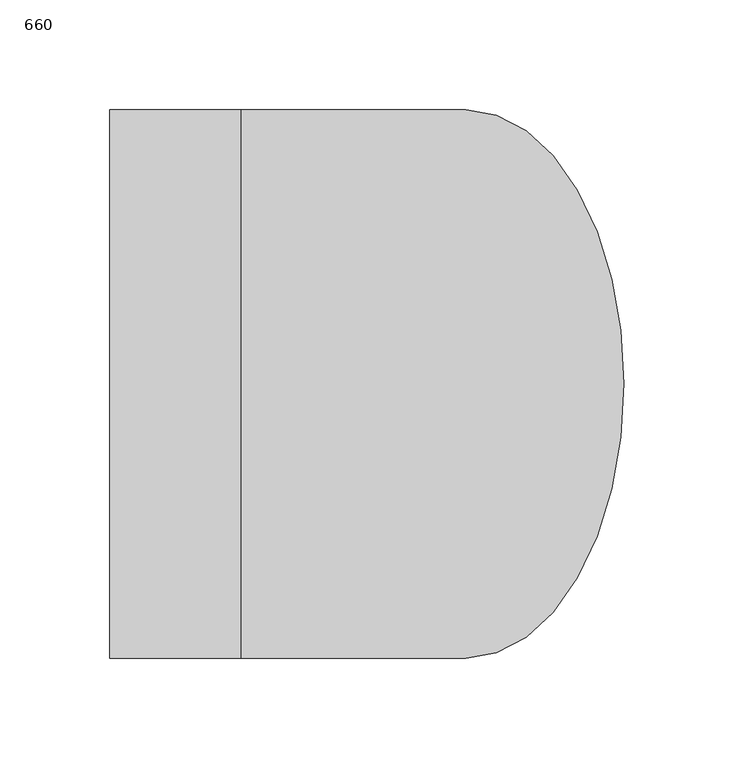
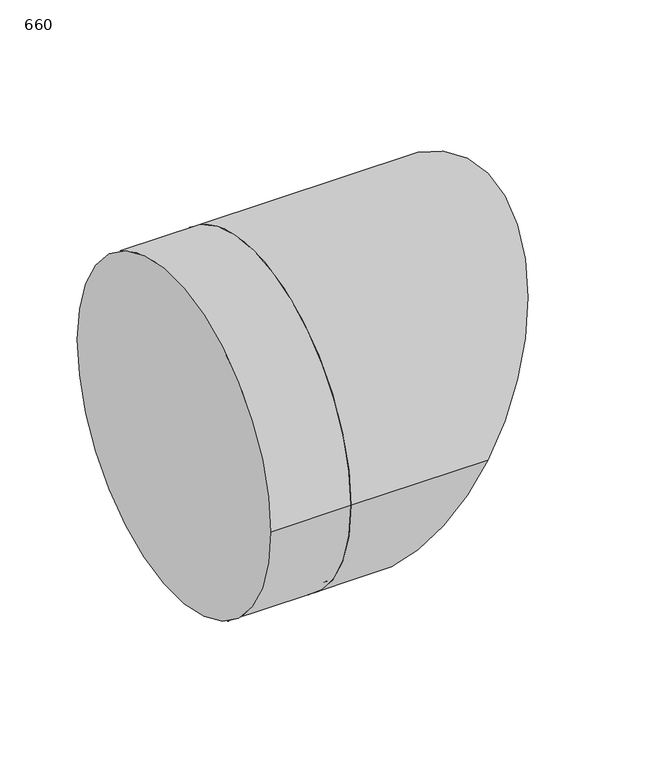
"""IFC4 building model written with IfcOpenShell, lengths in millimetres: pipe fitting geometry, CADS_Jeremias_HorizontalTerminalWithGrid_Socket : 660."""

from ifc_helpers import new_model, si_unit, point, frame, origin, origin_2d, place, context, project, spatial, polyline, circle_curve, ellipse_curve, trimmed, segment, composite_curve, outline, extrude, source, transform, mapped, element, save
from ifc_brep_helpers import plane_surface, cylinder_surface, revolved_surface, advanced_brep


def pipe_fitting_660_6ef6b7b5(model_context):
    return source(origin(), model_context, "Body", "SolidModel", [
        advanced_brep(
        [(102.1687836, -125.0, 0.0), (30.0, 0.0, -125.0), (102.1687836, 125.0, 0.0), (174.3375673, 0.0, 125.0), (102.1687836, 121.0, 0.0), (102.1687836, -121.0, 0.0), (0.0, -125.0, 0.0), (0.0, 125.0, 0.0), (0.0, -121.0, 0.0), (0.0, 121.0, 0.0)],
        [
            (0, 1, ellipse_curve(frame((102.1687836, 0.0, 0.0), z_axis=(0.8660254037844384, 0.0, -0.5000000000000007), x_axis=(0.5000000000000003, 0.0, 0.8660254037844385)), 144.3375673, 125.0)),
            (1, 2, ellipse_curve(frame((102.1687836, 0.0, 0.0), z_axis=(0.8660254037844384, 0.0, -0.5000000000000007), x_axis=(0.5000000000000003, 0.0, 0.8660254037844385)), 144.3375673, 125.0)),
            (2, 3, ellipse_curve(frame((102.1687836, 0.0, 0.0), z_axis=(0.8660254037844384, 0.0, -0.5000000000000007), x_axis=(0.5000000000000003, 0.0, 0.8660254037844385)), 144.3375673, 125.0)),
            (3, 0, ellipse_curve(frame((102.1687836, 0.0, 0.0), z_axis=(0.8660254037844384, 0.0, -0.5000000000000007), x_axis=(0.5000000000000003, 0.0, 0.8660254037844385)), 144.3375673, 125.0)),
            (4, 5, ellipse_curve(frame((102.1687836, 0.0, 0.0), z_axis=(-0.8660254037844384, 0.0, 0.5000000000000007), x_axis=(-0.5000000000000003, 0.0, -0.8660254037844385)), 139.7187651, 121.0)),
            (5, 4, ellipse_curve(frame((102.1687836, 0.0, 0.0), z_axis=(-0.8660254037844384, 0.0, 0.5000000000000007), x_axis=(-0.5000000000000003, 0.0, -0.8660254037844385)), 139.7187651, 121.0)),
            (6, 7, circle_curve(frame((0.0, 0.0, 0.0), z_axis=(-1.0, 0.0, 0.0), x_axis=(0.0, 1.0, 0.0)), 125.0)),
            (7, 6, circle_curve(frame((0.0, 0.0, 0.0), z_axis=(-1.0, 0.0, 0.0), x_axis=(0.0, 1.0, 0.0)), 125.0)),
            (8, 9, circle_curve(frame((0.0, 0.0, 0.0), z_axis=(1.0, 0.0, 0.0), x_axis=(0.0, 1.0, 0.0)), 121.0)),
            (9, 8, circle_curve(frame((0.0, 0.0, 0.0), z_axis=(1.0, 0.0, 0.0), x_axis=(0.0, 1.0, 0.0)), 121.0)),
            (8, 5),
            (4, 9),
            (7, 2),
            (0, 6),
        ],
        [
            plane_surface(frame((174.3375673, -450.0, 125.0), z_axis=(0.8660254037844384, 0.0, -0.5000000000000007), x_axis=(0.0, 1.0, 0.0))),
            plane_surface(frame((0.0, 121.0, 0.0), z_axis=(-1.0, 0.0, 0.0), x_axis=(0.0, 0.0, 1.0))),
            revolved_surface(polyline([(0.0, 121.0, 0.0), (172.02816615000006, 121.0, 0.0)]), (0.0, 0.0, 0.0), (-1.0, 0.0, 0.0)),
            cylinder_surface(frame((0.0, 0.0, 0.0), z_axis=(1.0, 0.0, 0.0), x_axis=(0.0, 1.0, 0.0)), 125.0),
        ],
        [
            (0, [[1, 2, 3, 4], [5, 6]]),
            (1, [[7, 8], [9, 10]]),
            (2, [[-9, 11, -5, 12]]),
            (2, [[-10, -12, -6, -11]]),
            (3, [[-8, 13, -2, -1, 14]]),
            (3, [[-7, -14, -4, -3, -13]]),
        ],
    ),
        extrude(outline(composite_curve([segment(trimmed(circle_curve(origin_2d(), 121.0), [point((-121.0, 0.0))], [point((121.0, 0.0))], False, "CARTESIAN"), True, "CONTINUOUS"), segment(trimmed(circle_curve(origin_2d(), 121.0), [point((121.0, 0.0))], [point((-121.0, 0.0))], False, "CARTESIAN"), True, "CONTINUOUS")], self_intersect=False)), frame((0.0, 0.0, 0.0), z_axis=(1.0, 0.0, 0.0), x_axis=(0.0, 1.0, 0.0)), (0.0, 0.0, 1.0), 5.0),
        extrude(outline(composite_curve([segment(trimmed(circle_curve(origin_2d(), 125.0), [point((-125.0, 0.0))], [point((125.0, 0.0))], False, "CARTESIAN"), True, "CONTINUOUS"), segment(trimmed(circle_curve(origin_2d(), 125.0), [point((125.0, 0.0))], [point((-125.0, 0.0))], False, "CARTESIAN"), True, "CONTINUOUS")], self_intersect=False)), frame((-60.0, 0.0, 0.0), z_axis=(1.0, 0.0, 0.0), x_axis=(0.0, 1.0, 0.0)), (0.0, 0.0, 1.0), 60.0),
    ])


if __name__ == "__main__":
    model = new_model("IFC4")
    model_context = context("Model", 3, world=origin())
    ifc_project = project(units=[si_unit("LENGTHUNIT", "METRE", prefix="MILLI")], contexts=[model_context])
    site = spatial("IfcSite", under=ifc_project)
    building = spatial("IfcBuilding", under=site)
    placement = place(None, origin())
    pipe_fitting_660_shape = pipe_fitting_660_6ef6b7b5(model_context)
    element("IfcPipeFitting", 1, ObjectType="CADS_Jeremias_HorizontalTerminalWithGrid_Socket : 660", at=placement, inside=building, context=model_context, shape_type="MappedRepresentation", body=[
        mapped(pipe_fitting_660_shape, transform((0.0, 0.0, 0.0), x_axis=(1.0, 0.0, 0.0), y_axis=(0.0, 1.0, 0.0), z_axis=(0.0, 0.0, 1.0))),
    ])
    save(model, "model.ifc")
